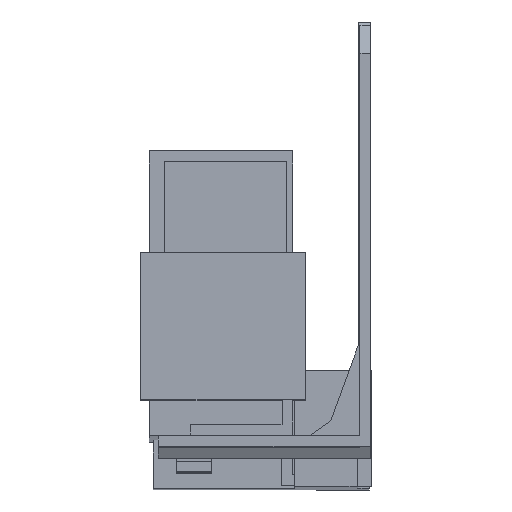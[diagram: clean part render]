
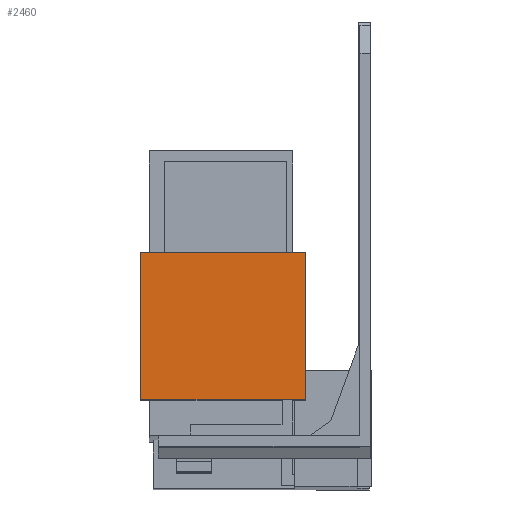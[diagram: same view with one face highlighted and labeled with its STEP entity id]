
A CAD part, front view. The second image highlights one B-rep face of the part: STEP entity #2460.
In plain terms, the highlighted planar face has unit normal (0, -1, 0.003).
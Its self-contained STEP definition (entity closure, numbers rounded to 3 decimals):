
#52 = VECTOR ( 'NONE', #4178, 1000. ) ;
#54 = LINE ( 'NONE', #4177, #52 ) ;
#686 = CARTESIAN_POINT ( 'NONE',  ( -32.7, -28.952, -19.322 ) ) ;
#688 = CARTESIAN_POINT ( 'NONE',  ( -32.7, -29.009, -40.322 ) ) ;
#689 = CARTESIAN_POINT ( 'NONE',  ( -9.3, -28.952, -19.322 ) ) ;
#690 = VERTEX_POINT ( 'NONE', #955 ) ;
#692 = VERTEX_POINT ( 'NONE', #689 ) ;
#693 = VERTEX_POINT ( 'NONE', #688 ) ;
#695 = VERTEX_POINT ( 'NONE', #686 ) ;
#955 = CARTESIAN_POINT ( 'NONE',  ( -9.3, -29.009, -40.322 ) ) ;
#1161 = FACE_OUTER_BOUND ( 'NONE', #2964, .T. ) ;
#1613 = ORIENTED_EDGE ( 'NONE', *, *, #3563, .T. ) ;
#1614 = ORIENTED_EDGE ( 'NONE', *, *, #3569, .F. ) ;
#1615 = ORIENTED_EDGE ( 'NONE', *, *, #3827, .F. ) ;
#1616 = ORIENTED_EDGE ( 'NONE', *, *, #3653, .T. ) ;
#2108 = LINE ( 'NONE', #4357, #2135 ) ;
#2135 = VECTOR ( 'NONE', #4360, 1000. ) ;
#2460 = ADVANCED_FACE ( 'NONE', ( #1161 ), #3283, .T. ) ;
#2616 = VECTOR ( 'NONE', #4740, 1000. ) ;
#2617 = LINE ( 'NONE', #4739, #2616 ) ;
#2964 = EDGE_LOOP ( 'NONE', ( #1613, #1614, #1615, #1616 ) ) ;
#3124 = AXIS2_PLACEMENT_3D ( 'NONE', #3287, #3294, #3295 ) ;
#3283 = PLANE ( 'NONE',  #3124 ) ;
#3287 = CARTESIAN_POINT ( 'NONE',  ( -9.3, -29.009, -40.322 ) ) ;
#3294 = DIRECTION ( 'NONE',  ( 0., -1., 0.003 ) ) ;
#3295 = DIRECTION ( 'NONE',  ( 1., 0., 0. ) ) ;
#3563 = EDGE_CURVE ( 'NONE', #692, #695, #4887, .T. ) ;
#3569 = EDGE_CURVE ( 'NONE', #693, #695, #54, .T. ) ;
#3653 = EDGE_CURVE ( 'NONE', #690, #692, #2108, .T. ) ;
#3827 = EDGE_CURVE ( 'NONE', #690, #693, #2617, .T. ) ;
#4158 = CARTESIAN_POINT ( 'NONE',  ( -9.3, -28.952, -19.322 ) ) ;
#4165 = DIRECTION ( 'NONE',  ( -1., 0., 0. ) ) ;
#4177 = CARTESIAN_POINT ( 'NONE',  ( -32.7, -29.009, -40.322 ) ) ;
#4178 = DIRECTION ( 'NONE',  ( 0., 0.003, 1. ) ) ;
#4357 = CARTESIAN_POINT ( 'NONE',  ( -9.3, -29.009, -40.322 ) ) ;
#4360 = DIRECTION ( 'NONE',  ( 0., 0.003, 1. ) ) ;
#4739 = CARTESIAN_POINT ( 'NONE',  ( -9.3, -29.009, -40.322 ) ) ;
#4740 = DIRECTION ( 'NONE',  ( -1., 0., 0. ) ) ;
#4887 = LINE ( 'NONE', #4158, #4891 ) ;
#4891 = VECTOR ( 'NONE', #4165, 1000. ) ;
